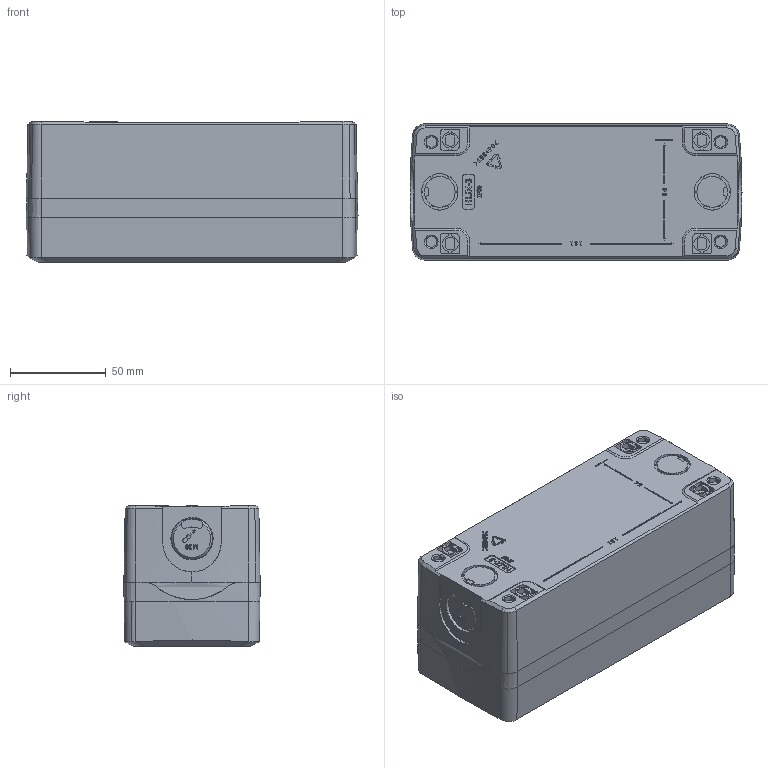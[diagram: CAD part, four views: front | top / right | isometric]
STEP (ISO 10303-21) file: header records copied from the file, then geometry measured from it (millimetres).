
FILE_DESCRIPTION (( 'STEP AP203' ), '1' );
FILE_NAME ('MC03.STEP', '2025-12-12T14:00:51', ( '' ), ( '' ), 'SwSTEP 2.0', 'SolidWorks 2022', '' );
FILE_SCHEMA (( 'CONFIG_CONTROL_DESIGN' ));
Length unit declared in the file: millimetre
Products named in the file (1): MC03
Bounding box: 173 x 71 x 73.5 mm (x, y, z)
Volume: 454036.1 mm3; surface area: 103339.3 mm2
Topology: 1 solids, 1 shells, 1213 faces, 3314 edges, 2193 vertices
Faces by surface type: plane 757, bspline 204, cylinder 171, cone 81
Entity records: 44110 total; most frequent: CARTESIAN_POINT 14728, ORIENTED_EDGE 6628, DIRECTION 5193, EDGE_CURVE 3314, LINE 2223, VECTOR 2223, VERTEX_POINT 2193, AXIS2_PLACEMENT_3D 1485
